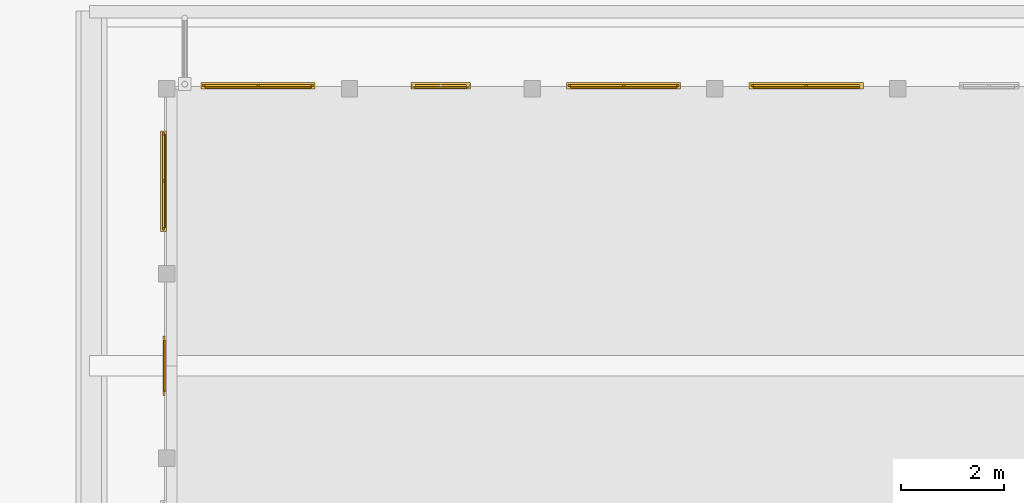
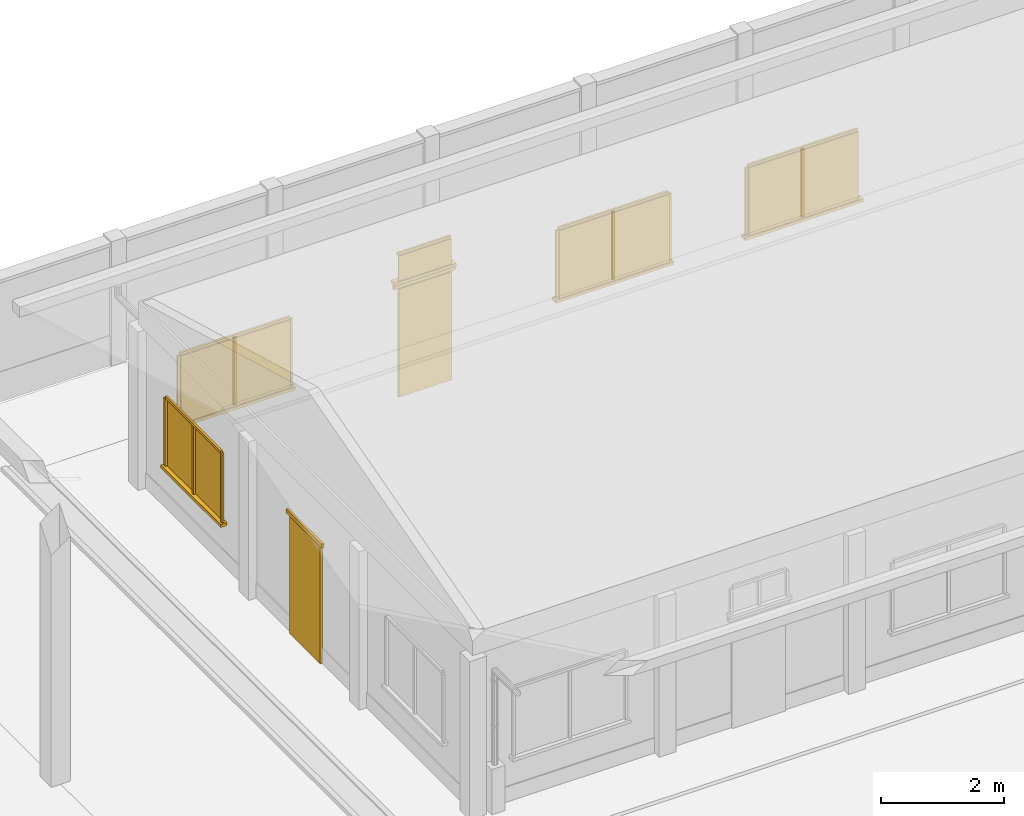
# One storey, part 69 of 177: 26 windows, 4 doors.
"""IFC4 building model written with IfcOpenShell, lengths in metres."""

from ifc_helpers import new_model, si_unit, origin, origin_with_axes, place, context, subcontext, project, spatial, triangles, element, save


model = new_model("IFC4")

# Units and contexts
model_context = context("Model", 3, precision=1e-05, world=origin_with_axes())
body_context = subcontext(model_context, "Body", "Model", "MODEL_VIEW")
ifc_project = project(units=[si_unit("LENGTHUNIT", "METRE"), si_unit("AREAUNIT", "SQUARE_METRE"), si_unit("VOLUMEUNIT", "CUBIC_METRE"), si_unit("PLANEANGLEUNIT", "RADIAN")], contexts=[model_context])

# Site, building, storey
site_placement = place(None, origin_with_axes())
site = spatial("IfcSite", under=ifc_project, at=site_placement, Name="Predio Los Mangos - Morales, San Martín", CompositionType="ELEMENT")
building_placement = place(site_placement, origin())
building = spatial("IfcBuilding", under=site, at=building_placement, Name="Hogar de Refugio Temporal", CompositionType="ELEMENT")
storey_placement = place(building_placement, origin())
storey = spatial("IfcBuildingStorey", under=building, at=storey_placement, Name="NIVEL 1 (NPT +0.00)", CompositionType="ELEMENT", Elevation=0.0)

# Windows
window_1_placement = place(storey_placement, origin())
element("IfcWindow", 1, at=window_1_placement, inside=storey, Name="E-08_v0_vid", ObjectType="Ventana", PredefinedType="WINDOW", context=body_context, shape_type="Tessellation", body=[
    triangles([(32.7476, 127.82, 1.05), (34.8124, 127.82, 1.05), (34.8124, 127.84, 1.05), (32.7476, 127.84, 1.05), (32.7476, 127.82, 2.4), (34.8124, 127.82, 2.4), (34.8124, 127.84, 2.4), (32.7476, 127.84, 2.4)], [[1, 4, 3], [1, 3, 2], [5, 6, 7], [5, 7, 8], [1, 2, 6], [1, 6, 5], [2, 3, 7], [2, 7, 6], [3, 4, 8], [3, 8, 7], [4, 1, 5], [4, 5, 8]]),
])
window_2_placement = place(storey_placement, origin())
element("IfcWindow", 2, at=window_2_placement, inside=storey, Name="E-08_v0_m", ObjectType="Ventana", PredefinedType="WINDOW", context=body_context, shape_type="Tessellation", body=[
    triangles([(32.6976, 127.84, 1.05), (32.7476, 127.84, 1.05), (32.7476, 127.88, 1.05), (32.6976, 127.88, 1.05), (32.6976, 127.84, 2.4), (32.7476, 127.84, 2.4), (32.7476, 127.88, 2.4), (32.6976, 127.88, 2.4)], [[1, 4, 3], [1, 3, 2], [5, 6, 7], [5, 7, 8], [1, 2, 6], [1, 6, 5], [2, 3, 7], [2, 7, 6], [3, 4, 8], [3, 8, 7], [4, 1, 5], [4, 5, 8]]),
])
window_3_placement = place(storey_placement, origin())
element("IfcWindow", 3, at=window_3_placement, inside=storey, Name="E-08_v0_m", ObjectType="Ventana", PredefinedType="WINDOW", context=body_context, shape_type="Tessellation", body=[
    triangles([(34.8124, 127.84, 1.05), (34.8624, 127.84, 1.05), (34.8624, 127.88, 1.05), (34.8124, 127.88, 1.05), (34.8124, 127.84, 2.4), (34.8624, 127.84, 2.4), (34.8624, 127.88, 2.4), (34.8124, 127.88, 2.4)], [[1, 4, 3], [1, 3, 2], [5, 6, 7], [5, 7, 8], [1, 2, 6], [1, 6, 5], [2, 3, 7], [2, 7, 6], [3, 4, 8], [3, 8, 7], [4, 1, 5], [4, 5, 8]]),
])
window_4_placement = place(storey_placement, origin())
element("IfcWindow", 4, at=window_4_placement, inside=storey, Name="E-08_v0_m", ObjectType="Ventana", PredefinedType="WINDOW", context=body_context, shape_type="Tessellation", body=[
    triangles([(32.7476, 127.84, 2.4), (34.8124, 127.84, 2.4), (34.8124, 127.88, 2.4), (32.7476, 127.88, 2.4), (32.7476, 127.84, 2.45), (34.8124, 127.84, 2.45), (34.8124, 127.88, 2.45), (32.7476, 127.88, 2.45)], [[1, 4, 3], [1, 3, 2], [5, 6, 7], [5, 7, 8], [1, 2, 6], [1, 6, 5], [2, 3, 7], [2, 7, 6], [3, 4, 8], [3, 8, 7], [4, 1, 5], [4, 5, 8]]),
])
window_5_placement = place(storey_placement, origin())
element("IfcWindow", 5, at=window_5_placement, inside=storey, Name="E-08_v0_m", ObjectType="Ventana", PredefinedType="WINDOW", context=body_context, shape_type="Tessellation", body=[
    triangles([(33.755, 127.84, 1.05), (33.805, 127.84, 1.05), (33.805, 127.88, 1.05), (33.755, 127.88, 1.05), (33.755, 127.84, 2.4), (33.805, 127.84, 2.4), (33.805, 127.88, 2.4), (33.755, 127.88, 2.4)], [[1, 4, 3], [1, 3, 2], [5, 6, 7], [5, 7, 8], [1, 2, 6], [1, 6, 5], [2, 3, 7], [2, 7, 6], [3, 4, 8], [3, 8, 7], [4, 1, 5], [4, 5, 8]]),
])
window_6_placement = place(storey_placement, origin())
element("IfcWindow", 6, at=window_6_placement, inside=storey, Name="E-08_v0_alf", ObjectType="Ventana", PredefinedType="WINDOW", context=body_context, shape_type="Tessellation", body=[
    triangles([(32.6676, 127.8, 0.99), (34.8924, 127.8, 0.99), (34.8924, 127.92, 0.99), (32.6676, 127.92, 0.99), (32.6676, 127.8, 1.05), (34.8924, 127.8, 1.05), (34.8924, 127.92, 1.05), (32.6676, 127.92, 1.05)], [[1, 4, 3], [1, 3, 2], [5, 6, 7], [5, 7, 8], [1, 2, 6], [1, 6, 5], [2, 3, 7], [2, 7, 6], [3, 4, 8], [3, 8, 7], [4, 1, 5], [4, 5, 8]]),
])

# Doors
door_1_placement = place(storey_placement, origin())
element("IfcDoor", 7, at=door_1_placement, inside=storey, Name="E-08_p1", ObjectType="Puerta", PredefinedType="DOOR", context=body_context, shape_type="Tessellation", body=[
    triangles([(36.84, 127.81, 0.15), (37.84, 127.81, 0.15), (37.84, 127.85, 0.15), (36.84, 127.85, 0.15), (36.84, 127.81, 2.3), (37.84, 127.81, 2.3), (37.84, 127.85, 2.3), (36.84, 127.85, 2.3)], [[1, 4, 3], [1, 3, 2], [5, 6, 7], [5, 7, 8], [1, 2, 6], [1, 6, 5], [2, 3, 7], [2, 7, 6], [3, 4, 8], [3, 8, 7], [4, 1, 5], [4, 5, 8]]),
])
door_2_placement = place(storey_placement, origin())
element("IfcDoor", 8, at=door_2_placement, inside=storey, Name="E-08_p1_marco", ObjectType="Puerta", PredefinedType="DOOR", context=body_context, shape_type="Tessellation", body=[
    triangles([(36.76, 127.83, 2.3), (37.92, 127.83, 2.3), (37.92, 127.87, 2.3), (36.76, 127.87, 2.3), (36.76, 127.83, 2.38), (37.92, 127.83, 2.38), (37.92, 127.87, 2.38), (36.76, 127.87, 2.38)], [[1, 4, 3], [1, 3, 2], [5, 6, 7], [5, 7, 8], [1, 2, 6], [1, 6, 5], [2, 3, 7], [2, 7, 6], [3, 4, 8], [3, 8, 7], [4, 1, 5], [4, 5, 8]]),
])

# Windows
window_7_placement = place(storey_placement, origin())
element("IfcWindow", 9, at=window_7_placement, inside=storey, Name="E-08_vt1_vid", ObjectType="Ventana", PredefinedType="WINDOW", context=body_context, shape_type="Tessellation", body=[
    triangles([(36.84, 127.82, 2.45), (37.84, 127.82, 2.45), (37.84, 127.84, 2.45), (36.84, 127.84, 2.45), (36.84, 127.82, 2.95), (37.84, 127.82, 2.95), (37.84, 127.84, 2.95), (36.84, 127.84, 2.95)], [[1, 4, 3], [1, 3, 2], [5, 6, 7], [5, 7, 8], [1, 2, 6], [1, 6, 5], [2, 3, 7], [2, 7, 6], [3, 4, 8], [3, 8, 7], [4, 1, 5], [4, 5, 8]]),
])
window_8_placement = place(storey_placement, origin())
element("IfcWindow", 10, at=window_8_placement, inside=storey, Name="E-08_vt1_m", ObjectType="Ventana", PredefinedType="WINDOW", context=body_context, shape_type="Tessellation", body=[
    triangles([(36.84, 127.84, 2.95), (37.84, 127.84, 2.95), (37.84, 127.88, 2.95), (36.84, 127.88, 2.95), (36.84, 127.84, 3.0), (37.84, 127.84, 3.0), (37.84, 127.88, 3.0), (36.84, 127.88, 3.0)], [[1, 4, 3], [1, 3, 2], [5, 6, 7], [5, 7, 8], [1, 2, 6], [1, 6, 5], [2, 3, 7], [2, 7, 6], [3, 4, 8], [3, 8, 7], [4, 1, 5], [4, 5, 8]]),
])
window_9_placement = place(storey_placement, origin())
element("IfcWindow", 11, at=window_9_placement, inside=storey, Name="E-08_vt1_alf", ObjectType="Ventana", PredefinedType="WINDOW", context=body_context, shape_type="Tessellation", body=[
    triangles([(36.76, 127.8, 2.39), (37.92, 127.8, 2.39), (37.92, 127.92, 2.39), (36.76, 127.92, 2.39), (36.76, 127.8, 2.45), (37.92, 127.8, 2.45), (37.92, 127.92, 2.45), (36.76, 127.92, 2.45)], [[1, 4, 3], [1, 3, 2], [5, 6, 7], [5, 7, 8], [1, 2, 6], [1, 6, 5], [2, 3, 7], [2, 7, 6], [3, 4, 8], [3, 8, 7], [4, 1, 5], [4, 5, 8]]),
])
window_10_placement = place(storey_placement, origin())
element("IfcWindow", 12, at=window_10_placement, inside=storey, Name="E-08_v2_vid", ObjectType="Ventana", PredefinedType="WINDOW", context=body_context, shape_type="Tessellation", body=[
    triangles([(39.8676, 127.82, 1.05), (41.9324, 127.82, 1.05), (41.9324, 127.84, 1.05), (39.8676, 127.84, 1.05), (39.8676, 127.82, 2.4), (41.9324, 127.82, 2.4), (41.9324, 127.84, 2.4), (39.8676, 127.84, 2.4)], [[1, 4, 3], [1, 3, 2], [5, 6, 7], [5, 7, 8], [1, 2, 6], [1, 6, 5], [2, 3, 7], [2, 7, 6], [3, 4, 8], [3, 8, 7], [4, 1, 5], [4, 5, 8]]),
])
window_11_placement = place(storey_placement, origin())
element("IfcWindow", 13, at=window_11_placement, inside=storey, Name="E-08_v2_m", ObjectType="Ventana", PredefinedType="WINDOW", context=body_context, shape_type="Tessellation", body=[
    triangles([(39.8176, 127.84, 1.05), (39.8676, 127.84, 1.05), (39.8676, 127.88, 1.05), (39.8176, 127.88, 1.05), (39.8176, 127.84, 2.4), (39.8676, 127.84, 2.4), (39.8676, 127.88, 2.4), (39.8176, 127.88, 2.4)], [[1, 4, 3], [1, 3, 2], [5, 6, 7], [5, 7, 8], [1, 2, 6], [1, 6, 5], [2, 3, 7], [2, 7, 6], [3, 4, 8], [3, 8, 7], [4, 1, 5], [4, 5, 8]]),
])
window_12_placement = place(storey_placement, origin())
element("IfcWindow", 14, at=window_12_placement, inside=storey, Name="E-08_v2_m", ObjectType="Ventana", PredefinedType="WINDOW", context=body_context, shape_type="Tessellation", body=[
    triangles([(41.9324, 127.84, 1.05), (41.9824, 127.84, 1.05), (41.9824, 127.88, 1.05), (41.9324, 127.88, 1.05), (41.9324, 127.84, 2.4), (41.9824, 127.84, 2.4), (41.9824, 127.88, 2.4), (41.9324, 127.88, 2.4)], [[1, 4, 3], [1, 3, 2], [5, 6, 7], [5, 7, 8], [1, 2, 6], [1, 6, 5], [2, 3, 7], [2, 7, 6], [3, 4, 8], [3, 8, 7], [4, 1, 5], [4, 5, 8]]),
])
window_13_placement = place(storey_placement, origin())
element("IfcWindow", 15, at=window_13_placement, inside=storey, Name="E-08_v2_m", ObjectType="Ventana", PredefinedType="WINDOW", context=body_context, shape_type="Tessellation", body=[
    triangles([(39.8676, 127.84, 2.4), (41.9324, 127.84, 2.4), (41.9324, 127.88, 2.4), (39.8676, 127.88, 2.4), (39.8676, 127.84, 2.45), (41.9324, 127.84, 2.45), (41.9324, 127.88, 2.45), (39.8676, 127.88, 2.45)], [[1, 4, 3], [1, 3, 2], [5, 6, 7], [5, 7, 8], [1, 2, 6], [1, 6, 5], [2, 3, 7], [2, 7, 6], [3, 4, 8], [3, 8, 7], [4, 1, 5], [4, 5, 8]]),
])
window_14_placement = place(storey_placement, origin())
element("IfcWindow", 16, at=window_14_placement, inside=storey, Name="E-08_v2_m", ObjectType="Ventana", PredefinedType="WINDOW", context=body_context, shape_type="Tessellation", body=[
    triangles([(40.875, 127.84, 1.05), (40.925, 127.84, 1.05), (40.925, 127.88, 1.05), (40.875, 127.88, 1.05), (40.875, 127.84, 2.4), (40.925, 127.84, 2.4), (40.925, 127.88, 2.4), (40.875, 127.88, 2.4)], [[1, 4, 3], [1, 3, 2], [5, 6, 7], [5, 7, 8], [1, 2, 6], [1, 6, 5], [2, 3, 7], [2, 7, 6], [3, 4, 8], [3, 8, 7], [4, 1, 5], [4, 5, 8]]),
])
window_15_placement = place(storey_placement, origin())
element("IfcWindow", 17, at=window_15_placement, inside=storey, Name="E-08_v2_alf", ObjectType="Ventana", PredefinedType="WINDOW", context=body_context, shape_type="Tessellation", body=[
    triangles([(39.7876, 127.8, 0.99), (42.0124, 127.8, 0.99), (42.0124, 127.92, 0.99), (39.7876, 127.92, 0.99), (39.7876, 127.8, 1.05), (42.0124, 127.8, 1.05), (42.0124, 127.92, 1.05), (39.7876, 127.92, 1.05)], [[1, 4, 3], [1, 3, 2], [5, 6, 7], [5, 7, 8], [1, 2, 6], [1, 6, 5], [2, 3, 7], [2, 7, 6], [3, 4, 8], [3, 8, 7], [4, 1, 5], [4, 5, 8]]),
])
window_16_placement = place(storey_placement, origin())
element("IfcWindow", 18, at=window_16_placement, inside=storey, Name="E-08_v3_vid", ObjectType="Ventana", PredefinedType="WINDOW", context=body_context, shape_type="Tessellation", body=[
    triangles([(43.4276, 127.82, 1.05), (45.4924, 127.82, 1.05), (45.4924, 127.84, 1.05), (43.4276, 127.84, 1.05), (43.4276, 127.82, 2.4), (45.4924, 127.82, 2.4), (45.4924, 127.84, 2.4), (43.4276, 127.84, 2.4)], [[1, 4, 3], [1, 3, 2], [5, 6, 7], [5, 7, 8], [1, 2, 6], [1, 6, 5], [2, 3, 7], [2, 7, 6], [3, 4, 8], [3, 8, 7], [4, 1, 5], [4, 5, 8]]),
])
window_17_placement = place(storey_placement, origin())
element("IfcWindow", 19, at=window_17_placement, inside=storey, Name="E-08_v3_m", ObjectType="Ventana", PredefinedType="WINDOW", context=body_context, shape_type="Tessellation", body=[
    triangles([(43.3776, 127.84, 1.05), (43.4276, 127.84, 1.05), (43.4276, 127.88, 1.05), (43.3776, 127.88, 1.05), (43.3776, 127.84, 2.4), (43.4276, 127.84, 2.4), (43.4276, 127.88, 2.4), (43.3776, 127.88, 2.4)], [[1, 4, 3], [1, 3, 2], [5, 6, 7], [5, 7, 8], [1, 2, 6], [1, 6, 5], [2, 3, 7], [2, 7, 6], [3, 4, 8], [3, 8, 7], [4, 1, 5], [4, 5, 8]]),
])
window_18_placement = place(storey_placement, origin())
element("IfcWindow", 20, at=window_18_placement, inside=storey, Name="E-08_v3_m", ObjectType="Ventana", PredefinedType="WINDOW", context=body_context, shape_type="Tessellation", body=[
    triangles([(43.4276, 127.84, 2.4), (45.4924, 127.84, 2.4), (45.4924, 127.88, 2.4), (43.4276, 127.88, 2.4), (43.4276, 127.84, 2.45), (45.4924, 127.84, 2.45), (45.4924, 127.88, 2.45), (43.4276, 127.88, 2.45)], [[1, 4, 3], [1, 3, 2], [5, 6, 7], [5, 7, 8], [1, 2, 6], [1, 6, 5], [2, 3, 7], [2, 7, 6], [3, 4, 8], [3, 8, 7], [4, 1, 5], [4, 5, 8]]),
])
window_19_placement = place(storey_placement, origin())
element("IfcWindow", 21, at=window_19_placement, inside=storey, Name="E-08_v3_m", ObjectType="Ventana", PredefinedType="WINDOW", context=body_context, shape_type="Tessellation", body=[
    triangles([(44.435, 127.84, 1.05), (44.485, 127.84, 1.05), (44.485, 127.88, 1.05), (44.435, 127.88, 1.05), (44.435, 127.84, 2.4), (44.485, 127.84, 2.4), (44.485, 127.88, 2.4), (44.435, 127.88, 2.4)], [[1, 4, 3], [1, 3, 2], [5, 6, 7], [5, 7, 8], [1, 2, 6], [1, 6, 5], [2, 3, 7], [2, 7, 6], [3, 4, 8], [3, 8, 7], [4, 1, 5], [4, 5, 8]]),
])
window_20_placement = place(storey_placement, origin())
element("IfcWindow", 22, at=window_20_placement, inside=storey, Name="E-08_v3_alf", ObjectType="Ventana", PredefinedType="WINDOW", context=body_context, shape_type="Tessellation", body=[
    triangles([(43.3476, 127.8, 0.99), (45.5724, 127.8, 0.99), (45.5724, 127.92, 0.99), (43.3476, 127.92, 0.99), (43.3476, 127.8, 1.05), (45.5724, 127.8, 1.05), (45.5724, 127.92, 1.05), (43.3476, 127.92, 1.05)], [[1, 4, 3], [1, 3, 2], [5, 6, 7], [5, 7, 8], [1, 2, 6], [1, 6, 5], [2, 3, 7], [2, 7, 6], [3, 4, 8], [3, 8, 7], [4, 1, 5], [4, 5, 8]]),
])

# Doors
door_3_placement = place(storey_placement, origin())
element("IfcDoor", 23, at=door_3_placement, inside=storey, Name="E-08_pp", ObjectType="Puerta", PredefinedType="DOOR", context=body_context, shape_type="Tessellation", body=[
    triangles([(31.95, 121.9, 0.15), (31.99, 121.9, 0.15), (31.99, 122.9, 0.15), (31.95, 122.9, 0.15), (31.95, 121.9, 2.5), (31.99, 121.9, 2.5), (31.99, 122.9, 2.5), (31.95, 122.9, 2.5)], [[1, 4, 3], [1, 3, 2], [5, 6, 7], [5, 7, 8], [1, 2, 6], [1, 6, 5], [2, 3, 7], [2, 7, 6], [3, 4, 8], [3, 8, 7], [4, 1, 5], [4, 5, 8]]),
])
door_4_placement = place(storey_placement, origin())
element("IfcDoor", 24, at=door_4_placement, inside=storey, Name="E-08_pp_marco", ObjectType="Puerta", PredefinedType="DOOR", context=body_context, shape_type="Tessellation", body=[
    triangles([(31.93, 121.82, 2.5), (31.97, 121.82, 2.5), (31.97, 122.98, 2.5), (31.93, 122.98, 2.5), (31.93, 121.82, 2.58), (31.97, 121.82, 2.58), (31.97, 122.98, 2.58), (31.93, 122.98, 2.58)], [[1, 4, 3], [1, 3, 2], [5, 6, 7], [5, 7, 8], [1, 2, 6], [1, 6, 5], [2, 3, 7], [2, 7, 6], [3, 4, 8], [3, 8, 7], [4, 1, 5], [4, 5, 8]]),
])

# Windows
window_21_placement = place(storey_placement, origin())
element("IfcWindow", 25, at=window_21_placement, inside=storey, Name="E-08_vg2_vid", ObjectType="Ventana", PredefinedType="WINDOW", context=body_context, shape_type="Tessellation", body=[
    triangles([(31.96, 125.1, 1.05), (31.98, 125.1, 1.05), (31.98, 126.9, 1.05), (31.96, 126.9, 1.05), (31.96, 125.1, 2.4), (31.98, 125.1, 2.4), (31.98, 126.9, 2.4), (31.96, 126.9, 2.4)], [[1, 4, 3], [1, 3, 2], [5, 6, 7], [5, 7, 8], [1, 2, 6], [1, 6, 5], [2, 3, 7], [2, 7, 6], [3, 4, 8], [3, 8, 7], [4, 1, 5], [4, 5, 8]]),
])
window_22_placement = place(storey_placement, origin())
element("IfcWindow", 26, at=window_22_placement, inside=storey, Name="E-08_vg2_m", ObjectType="Ventana", PredefinedType="WINDOW", context=body_context, shape_type="Tessellation", body=[
    triangles([(31.92, 125.05, 1.05), (31.96, 125.05, 1.05), (31.96, 125.1, 1.05), (31.92, 125.1, 1.05), (31.92, 125.05, 2.4), (31.96, 125.05, 2.4), (31.96, 125.1, 2.4), (31.92, 125.1, 2.4)], [[1, 4, 3], [1, 3, 2], [5, 6, 7], [5, 7, 8], [1, 2, 6], [1, 6, 5], [2, 3, 7], [2, 7, 6], [3, 4, 8], [3, 8, 7], [4, 1, 5], [4, 5, 8]]),
])
window_23_placement = place(storey_placement, origin())
element("IfcWindow", 27, at=window_23_placement, inside=storey, Name="E-08_vg2_m", ObjectType="Ventana", PredefinedType="WINDOW", context=body_context, shape_type="Tessellation", body=[
    triangles([(31.92, 126.9, 1.05), (31.96, 126.9, 1.05), (31.96, 126.95, 1.05), (31.92, 126.95, 1.05), (31.92, 126.9, 2.4), (31.96, 126.9, 2.4), (31.96, 126.95, 2.4), (31.92, 126.95, 2.4)], [[1, 4, 3], [1, 3, 2], [5, 6, 7], [5, 7, 8], [1, 2, 6], [1, 6, 5], [2, 3, 7], [2, 7, 6], [3, 4, 8], [3, 8, 7], [4, 1, 5], [4, 5, 8]]),
])
window_24_placement = place(storey_placement, origin())
element("IfcWindow", 28, at=window_24_placement, inside=storey, Name="E-08_vg2_m", ObjectType="Ventana", PredefinedType="WINDOW", context=body_context, shape_type="Tessellation", body=[
    triangles([(31.92, 125.1, 2.4), (31.96, 125.1, 2.4), (31.96, 126.9, 2.4), (31.92, 126.9, 2.4), (31.92, 125.1, 2.45), (31.96, 125.1, 2.45), (31.96, 126.9, 2.45), (31.92, 126.9, 2.45)], [[1, 4, 3], [1, 3, 2], [5, 6, 7], [5, 7, 8], [1, 2, 6], [1, 6, 5], [2, 3, 7], [2, 7, 6], [3, 4, 8], [3, 8, 7], [4, 1, 5], [4, 5, 8]]),
])
window_25_placement = place(storey_placement, origin())
element("IfcWindow", 29, at=window_25_placement, inside=storey, Name="E-08_vg2_m", ObjectType="Ventana", PredefinedType="WINDOW", context=body_context, shape_type="Tessellation", body=[
    triangles([(31.92, 125.975, 1.05), (31.96, 125.975, 1.05), (31.96, 126.025, 1.05), (31.92, 126.025, 1.05), (31.92, 125.975, 2.4), (31.96, 125.975, 2.4), (31.96, 126.025, 2.4), (31.92, 126.025, 2.4)], [[1, 4, 3], [1, 3, 2], [5, 6, 7], [5, 7, 8], [1, 2, 6], [1, 6, 5], [2, 3, 7], [2, 7, 6], [3, 4, 8], [3, 8, 7], [4, 1, 5], [4, 5, 8]]),
])
window_26_placement = place(storey_placement, origin())
element("IfcWindow", 30, at=window_26_placement, inside=storey, Name="E-08_vg2_alf", ObjectType="Ventana", PredefinedType="WINDOW", context=body_context, shape_type="Tessellation", body=[
    triangles([(32.0, 125.02, 0.99), (31.88, 125.02, 0.99), (31.88, 126.98, 0.99), (32.0, 126.98, 0.99), (32.0, 125.02, 1.05), (31.88, 125.02, 1.05), (31.88, 126.98, 1.05), (32.0, 126.98, 1.05)], [[1, 4, 3], [1, 3, 2], [5, 6, 7], [5, 7, 8], [1, 2, 6], [1, 6, 5], [2, 3, 7], [2, 7, 6], [3, 4, 8], [3, 8, 7], [4, 1, 5], [4, 5, 8]]),
])

save(model, "model.ifc")
